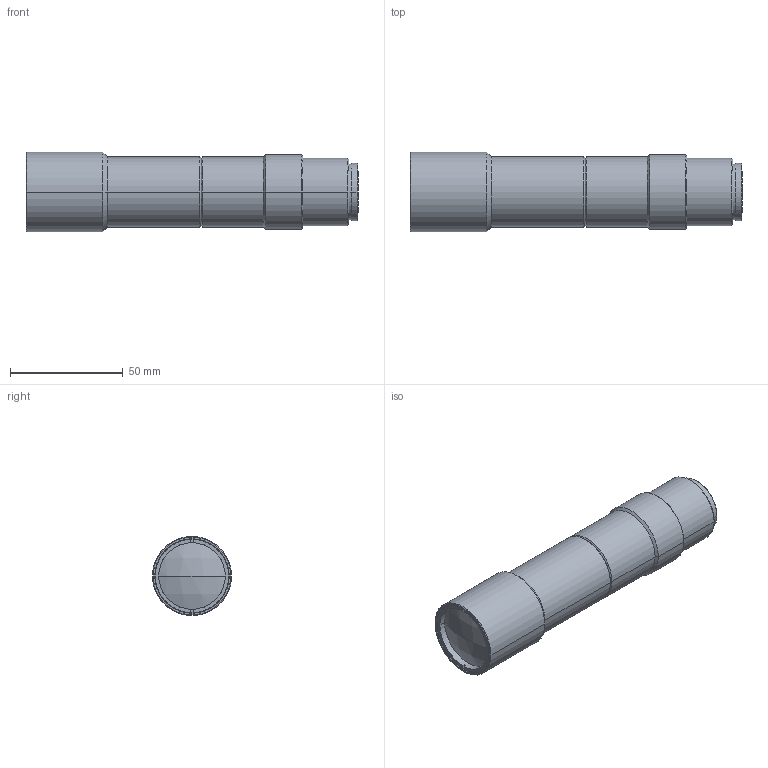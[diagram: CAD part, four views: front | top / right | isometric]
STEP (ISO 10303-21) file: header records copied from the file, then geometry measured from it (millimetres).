
FILE_DESCRIPTION (( 'STEP AP203' ), '1' );
FILE_NAME ('FJ1381-001(TEC-V10110MPW)_Assy.STEP', '2017-05-19T09:41:29', ( '' ), ( '' ), 'SwSTEP 2.0', 'SolidWorks 2016', '' );
FILE_SCHEMA (( 'CONFIG_CONTROL_DESIGN' ));
Length unit declared in the file: millimetre
Products named in the file (7): FJ1381-101; FJ1381-G01; FJ1381-102; FJ1381-105; FJ1381-107; FJ1381-G06; FJ1381-001(TEC-V10110MPW)_Assy
Assembly tree (6 placements, depth 2):
  FJ1381-001(TEC-V10110MPW)_Assy
    FJ1381-101
    FJ1381-G01
    FJ1381-102
    FJ1381-105
    FJ1381-107
    FJ1381-G06
Bounding box: 146.93 x 35 x 35 mm (x, y, z)
Volume: 49017.9 mm3; surface area: 38847.6 mm2
Topology: 6 solids, 6 shells, 180 faces, 368 edges, 229 vertices
Faces by surface type: cylinder 80, cone 47, plane 45, sphere 8
Entity records: 5544 total; most frequent: DIRECTION 965, CARTESIAN_POINT 798, ORIENTED_EDGE 736, AXIS2_PLACEMENT_3D 412, EDGE_CURVE 368, VERTEX_POINT 229, CIRCLE 223, EDGE_LOOP 217
